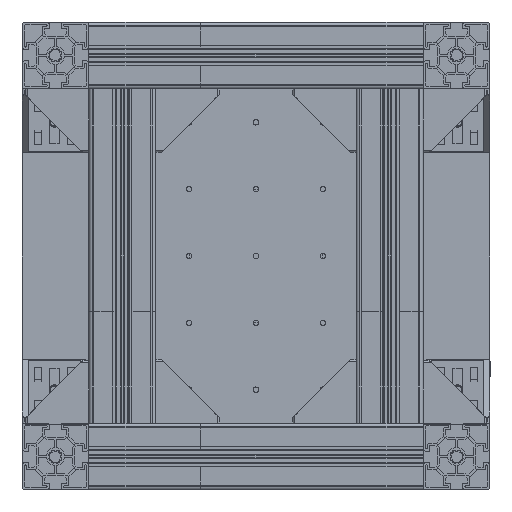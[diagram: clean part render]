
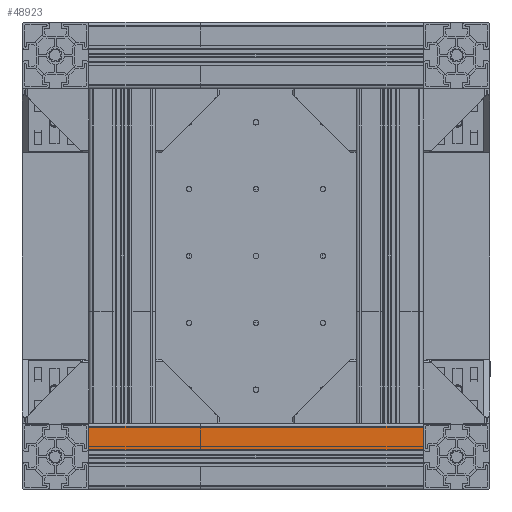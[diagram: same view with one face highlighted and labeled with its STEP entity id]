
A CAD part, front view. The second image highlights one B-rep face of the part: STEP entity #48923.
In plain terms, the highlighted planar face has unit normal (0, -1, 0).
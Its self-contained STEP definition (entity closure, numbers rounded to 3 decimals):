
#4298=FACE_OUTER_BOUND('',#6945,.T.);
#6945=EDGE_LOOP('',(#33554,#33555,#33556,#33557,#33558,#33559));
#10102=LINE('',#72407,#15329);
#10158=LINE('',#72603,#15385);
#10295=LINE('',#73002,#15522);
#10296=LINE('',#73005,#15523);
#10297=LINE('',#73007,#15524);
#10298=LINE('',#73008,#15525);
#15329=VECTOR('',#57469,10.);
#15385=VECTOR('',#57633,10.);
#15522=VECTOR('',#58026,1.);
#15523=VECTOR('',#58029,1.);
#15524=VECTOR('',#58030,10.);
#15525=VECTOR('',#58031,1.);
#20621=VERTEX_POINT('',#72401);
#20623=VERTEX_POINT('',#72405);
#20709=VERTEX_POINT('',#72601);
#20843=VERTEX_POINT('',#73000);
#20844=VERTEX_POINT('',#73004);
#20845=VERTEX_POINT('',#73006);
#25572=EDGE_CURVE('',#20621,#20623,#10102,.T.);
#25670=EDGE_CURVE('',#20709,#20623,#10158,.T.);
#25890=EDGE_CURVE('',#20621,#20843,#10295,.T.);
#25891=EDGE_CURVE('',#20843,#20844,#10296,.T.);
#25892=EDGE_CURVE('',#20845,#20709,#10297,.T.);
#25893=EDGE_CURVE('',#20845,#20844,#10298,.T.);
#33554=ORIENTED_EDGE('',*,*,#25891,.F.);
#33555=ORIENTED_EDGE('',*,*,#25890,.F.);
#33556=ORIENTED_EDGE('',*,*,#25572,.T.);
#33557=ORIENTED_EDGE('',*,*,#25670,.F.);
#33558=ORIENTED_EDGE('',*,*,#25892,.F.);
#33559=ORIENTED_EDGE('',*,*,#25893,.T.);
#47389=PLANE('',#52359);
#48923=ADVANCED_FACE('',(#4298),#47389,.T.);
#52359=AXIS2_PLACEMENT_3D('',#73003,#58027,#58028);
#57469=DIRECTION('',(0.,0.,-1.));
#57633=DIRECTION('',(-1.,0.,0.));
#58026=DIRECTION('',(0.,0.,1.));
#58027=DIRECTION('center_axis',(0.,-1.,0.));
#58028=DIRECTION('ref_axis',(1.,0.,0.));
#58029=DIRECTION('',(1.,0.,0.));
#58030=DIRECTION('',(0.,0.,-1.));
#58031=DIRECTION('',(0.,0.,1.));
#72401=CARTESIAN_POINT('',(-27.,-30.,-200.));
#72405=CARTESIAN_POINT('',(-27.,-30.,-300.));
#72407=CARTESIAN_POINT('',(-27.,-30.,-200.));
#72601=CARTESIAN_POINT('',(-6.3,-30.,-300.));
#72603=CARTESIAN_POINT('',(-6.3,-30.,-300.));
#73000=CARTESIAN_POINT('',(-27.,-30.,0.));
#73002=CARTESIAN_POINT('',(-27.,-30.,-200.));
#73003=CARTESIAN_POINT('Origin',(-27.,-30.,-200.));
#73004=CARTESIAN_POINT('',(-6.3,-30.,0.));
#73005=CARTESIAN_POINT('',(-16.65,-30.,0.));
#73006=CARTESIAN_POINT('',(-6.3,-30.,-200.));
#73007=CARTESIAN_POINT('',(-6.3,-30.,-200.));
#73008=CARTESIAN_POINT('',(-6.3,-30.,-100.));
